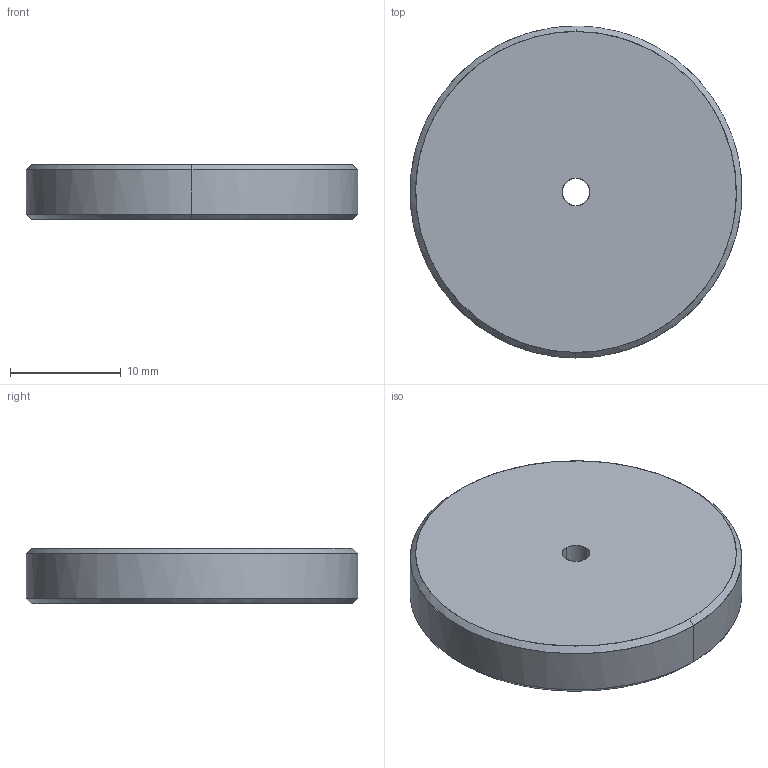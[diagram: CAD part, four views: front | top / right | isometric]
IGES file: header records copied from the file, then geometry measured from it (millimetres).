
Global section: file name: E:\UnigraphicsGraphicData\MISUMI_PRESS-PARTS\IGES\3d_fwss-d30-v2.5-t5.0_00538_r00.igs; native system: NX V5.0; preprocessor: UGS NX IGES V5.0; author: MISUMI; date: 20110105.160701; units: millimetre
Bounding box: 29.95 x 30 x 5 mm (x, y, z)
Surface area: 1858.8 mm2 (no closed solid volume)
Topology: 0 solids, 0 shells, 10 faces, 80 edges, 80 vertices
Faces by surface type: bspline 10
